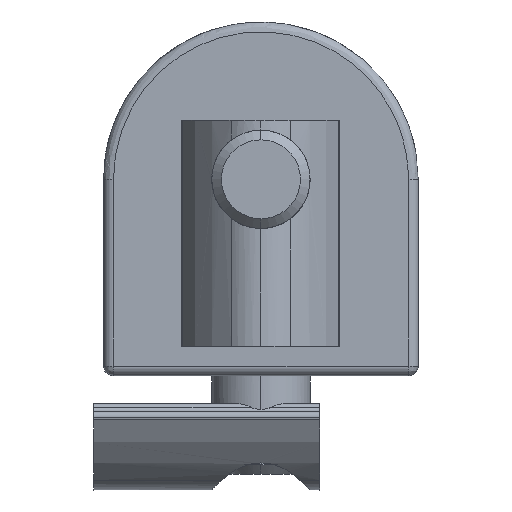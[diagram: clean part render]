
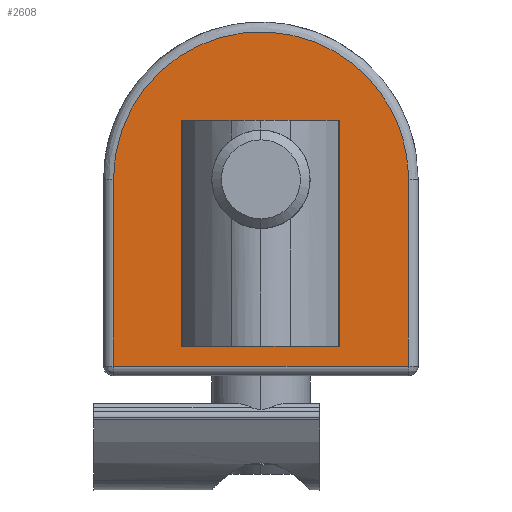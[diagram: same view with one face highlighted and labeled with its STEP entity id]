
A CAD part, left-side view. The second image highlights one B-rep face of the part: STEP entity #2608.
In plain terms, the highlighted planar face has unit normal (-1, 0, 0).
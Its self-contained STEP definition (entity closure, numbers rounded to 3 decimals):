
#1 = CIRCLE ( 'NONE', #3928, 3. ) ;
#21 = AXIS2_PLACEMENT_3D ( 'NONE', #1097, #1495, #2132 ) ;
#24 = CARTESIAN_POINT ( 'NONE',  ( 0., 7.5, 10. ) ) ;
#36 = CARTESIAN_POINT ( 'NONE',  ( 0., 0., 13. ) ) ;
#42 = EDGE_CURVE ( 'NONE', #4392, #3799, #122, .T. ) ;
#82 = DIRECTION ( 'NONE',  ( 0., 0., 1. ) ) ;
#122 = CIRCLE ( 'NONE', #3897, 3. ) ;
#144 = FACE_BOUND ( 'NONE', #2719, .T. ) ;
#237 = LINE ( 'NONE', #258, #2048 ) ;
#258 = CARTESIAN_POINT ( 'NONE',  ( 0., -7.5, 7.852 ) ) ;
#437 = PLANE ( 'NONE',  #21 ) ;
#616 = DIRECTION ( 'NONE',  ( -1., 0., 0. ) ) ;
#696 = CARTESIAN_POINT ( 'NONE',  ( 0., -7.5, 10. ) ) ;
#852 = ORIENTED_EDGE ( 'NONE', *, *, #42, .F. ) ;
#1021 = CARTESIAN_POINT ( 'NONE',  ( 0., 10., 0.5 ) ) ;
#1034 = LINE ( 'NONE', #3135, #1976 ) ;
#1097 = CARTESIAN_POINT ( 'NONE',  ( 0., 0., 7.852 ) ) ;
#1140 = VERTEX_POINT ( 'NONE', #3559 ) ;
#1468 = CARTESIAN_POINT ( 'NONE',  ( 0., 0., 7. ) ) ;
#1495 = DIRECTION ( 'NONE',  ( 1., 0., 0. ) ) ;
#1520 = CARTESIAN_POINT ( 'NONE',  ( 0., 0., 10. ) ) ;
#1567 = CARTESIAN_POINT ( 'NONE',  ( 0., 0., 10. ) ) ;
#1677 = CARTESIAN_POINT ( 'NONE',  ( 0., -7.5, 25. ) ) ;
#1859 = ORIENTED_EDGE ( 'NONE', *, *, #2527, .F. ) ;
#1976 = VECTOR ( 'NONE', #82, 1000. ) ;
#1985 = DIRECTION ( 'NONE',  ( 0., 0., -1. ) ) ;
#1997 = ORIENTED_EDGE ( 'NONE', *, *, #2421, .F. ) ;
#2048 = VECTOR ( 'NONE', #1985, 1000. ) ;
#2132 = DIRECTION ( 'NONE',  ( 0., 0., -1. ) ) ;
#2269 = DIRECTION ( 'NONE',  ( 0., 0., 1. ) ) ;
#2302 = DIRECTION ( 'NONE',  ( 0., 0., 1. ) ) ;
#2335 = VECTOR ( 'NONE', #3742, 1000. ) ;
#2421 = EDGE_CURVE ( 'NONE', #3799, #4392, #1, .T. ) ;
#2527 = EDGE_CURVE ( 'NONE', #3682, #3074, #3305, .T. ) ;
#2560 = DIRECTION ( 'NONE',  ( -1., 0., 0. ) ) ;
#2608 = ADVANCED_FACE ( 'NONE', ( #3534, #144 ), #437, .F. ) ;
#2719 = EDGE_LOOP ( 'NONE', ( #852, #1997 ) ) ;
#2727 = LINE ( 'NONE', #1021, #2335 ) ;
#3014 = CARTESIAN_POINT ( 'NONE',  ( 0., -7.5, 10. ) ) ;
#3046 = VERTEX_POINT ( 'NONE', #3388 ) ;
#3072 = EDGE_CURVE ( 'NONE', #3046, #1140, #2727, .T. ) ;
#3074 = VERTEX_POINT ( 'NONE', #3014 ) ;
#3135 = CARTESIAN_POINT ( 'NONE',  ( 0., 7.5, 7.852 ) ) ;
#3305 =( BOUNDED_CURVE ( )  B_SPLINE_CURVE ( 3, ( #4389, #3760, #1677, #696 ),
 .UNSPECIFIED., .F., .F. ) 
 B_SPLINE_CURVE_WITH_KNOTS ( ( 4, 4 ),
 ( 0., 1. ),
 .UNSPECIFIED. ) 
 CURVE ( )  GEOMETRIC_REPRESENTATION_ITEM ( )  RATIONAL_B_SPLINE_CURVE ( ( 1., 0.333, 0.333, 1. ) ) 
 REPRESENTATION_ITEM ( '' )  );
#3316 = ORIENTED_EDGE ( 'NONE', *, *, #3591, .F. ) ;
#3366 = EDGE_CURVE ( 'NONE', #3074, #3046, #237, .T. ) ;
#3388 = CARTESIAN_POINT ( 'NONE',  ( 0., -7.5, 0.5 ) ) ;
#3534 = FACE_OUTER_BOUND ( 'NONE', #4060, .T. ) ;
#3559 = CARTESIAN_POINT ( 'NONE',  ( 0., 7.5, 0.5 ) ) ;
#3591 = EDGE_CURVE ( 'NONE', #1140, #3682, #1034, .T. ) ;
#3682 = VERTEX_POINT ( 'NONE', #24 ) ;
#3742 = DIRECTION ( 'NONE',  ( 0., 1., 0. ) ) ;
#3760 = CARTESIAN_POINT ( 'NONE',  ( 0., 7.5, 25. ) ) ;
#3799 = VERTEX_POINT ( 'NONE', #1468 ) ;
#3865 = ORIENTED_EDGE ( 'NONE', *, *, #3366, .F. ) ;
#3897 = AXIS2_PLACEMENT_3D ( 'NONE', #1567, #616, #2302 ) ;
#3922 = ORIENTED_EDGE ( 'NONE', *, *, #3072, .F. ) ;
#3928 = AXIS2_PLACEMENT_3D ( 'NONE', #1520, #2560, #2269 ) ;
#4060 = EDGE_LOOP ( 'NONE', ( #3316, #3922, #3865, #1859 ) ) ;
#4389 = CARTESIAN_POINT ( 'NONE',  ( 0., 7.5, 10. ) ) ;
#4392 = VERTEX_POINT ( 'NONE', #36 ) ;
